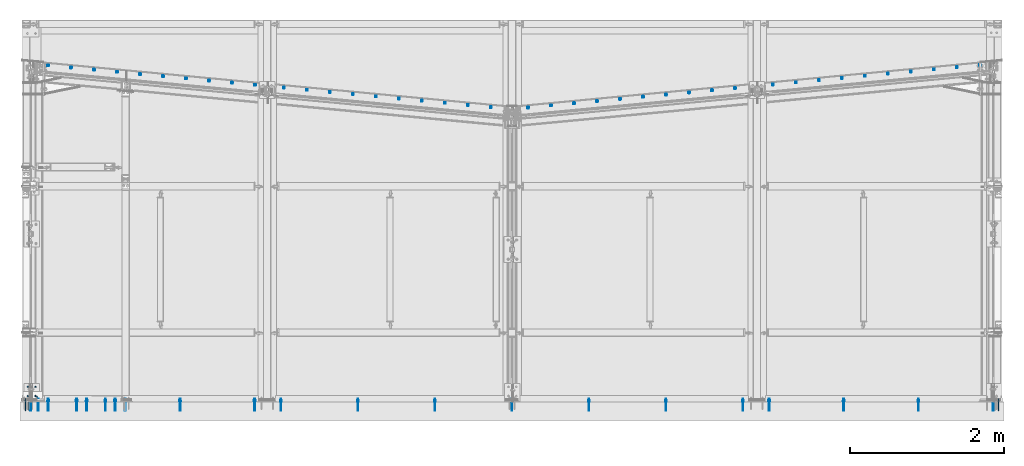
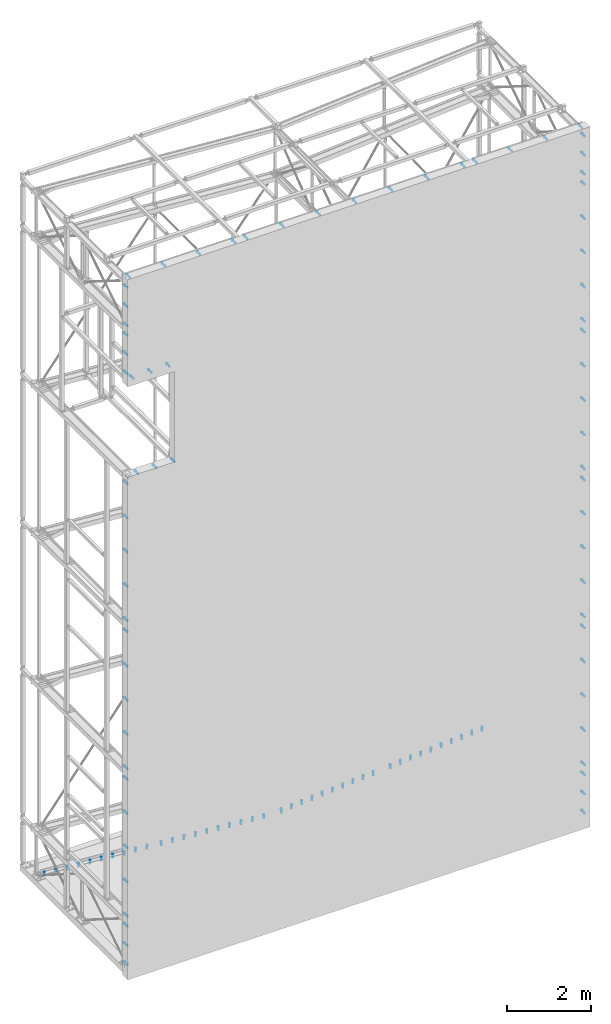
# One storey, part 216 of 271: 23 mechanical fasteners, 21 elements without a shape of their own.
"""IFC2X3 building model written with IfcOpenShell, lengths in millimetres."""

from ifc_helpers import new_model, si_unit, frame, origin_with_axes, origin_2d_with_axis, place, context, subcontext, project, spatial, polyline, circle, outline, extrude, source, transform, mapped, material, type_object, element, aggregate, save


model = new_model("IFC2X3")

# Units and contexts
model_context = context("Model", 3, precision=1e-05, world=origin_with_axes())
body_context = subcontext(model_context, "Body", "Model", "MODEL_VIEW")
ifc_project = project(units=[si_unit("LENGTHUNIT", "METRE", prefix="MILLI"), si_unit("AREAUNIT", "SQUARE_METRE"), si_unit("VOLUMEUNIT", "CUBIC_METRE"), si_unit("MASSUNIT", "GRAM", prefix="KILO"), si_unit("TIMEUNIT", "SECOND"), si_unit("PLANEANGLEUNIT", "RADIAN"), si_unit("SOLIDANGLEUNIT", "STERADIAN"), si_unit("THERMODYNAMICTEMPERATUREUNIT", "DEGREE_CELSIUS"), si_unit("LUMINOUSINTENSITYUNIT", "LUMEN")], contexts=[model_context])

# Site, building, storey
site_placement = place(None, origin_with_axes())
site = spatial("IfcSite", under=ifc_project, at=site_placement, Name="Undefined", CompositionType="ELEMENT")
building_placement = place(site_placement, origin_with_axes())
building = spatial("IfcBuilding", under=site, at=building_placement, Name="Undefined", CompositionType="ELEMENT")
storey_placement = place(building_placement, origin_with_axes())
storey = spatial("IfcBuildingStorey", under=building, at=storey_placement, Name="Undefined", CompositionType="ELEMENT", Elevation=0.0)

# Assembly, mechanical fasteners
assembly_1_placement = place(storey_placement, origin_with_axes())
assembly_1 = element("IfcElementAssembly", 1, at=assembly_1_placement, inside=storey, Name="BELKA", AssemblyPlace="NOTDEFINED", PredefinedType="REINFORCEMENT_UNIT")
ifc_material = material(Name="Undefined")
mechanical_fastener_type = type_object("IfcMechanicalFastenerType", Name="Bolt assembly")
shared_shape_1 = source(origin_with_axes(), body_context, "Body", "SweptSolid", [
    extrude(circle(Radius=7.0, at=origin_2d_with_axis()), frame((0.0, 2.0000000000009, 0.0), z_axis=(0.0, 1.0, 0.0), x_axis=(1.0, 0.0, 0.0)), (0.0, 0.0, 1.0), 8.1),
    extrude(outline(polyline([(10.39230484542, 0.0), (5.19615242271, 9.00000000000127), (-5.19615242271, 9.00000000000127), (-10.39230484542, 0.0), (-5.19615242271, -9.00000000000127), (5.19615242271, -9.00000000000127), (10.39230484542, 0.0)])), frame((0.0, -5.4999999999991, 0.0), z_axis=(0.0, 1.0, 0.0), x_axis=(1.0, 0.0, 0.0)), (0.0, 0.0, 1.0), 7.5),
    extrude(circle(Radius=6.0, at=origin_2d_with_axis()), frame((0.0, 2.0000000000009, 0.0), z_axis=(0.0, 1.0, 0.0), x_axis=(1.0, 0.0, 0.0)), (0.0, 0.0, 1.0), 100.0),
    extrude(circle(Radius=12.0, at=origin_2d_with_axis()), frame((0.0, 10.000000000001, 0.0), z_axis=(0.0, 1.0, 0.0), x_axis=(1.0, 0.0, 0.0)), (0.0, 0.0, 1.0), 2.5),
    extrude(outline(polyline([(10.96965511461, 0.0), (5.484827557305, 9.50000000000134), (-5.484827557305, 9.50000000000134), (-10.96965511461, 0.0), (-5.484827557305, -9.50000000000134), (5.484827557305, -9.50000000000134), (10.96965511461, 0.0)])), frame((0.0, 12.500000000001, 0.0), z_axis=(0.0, 1.0, 0.0), x_axis=(1.0, 0.0, 0.0)), (0.0, 0.0, 1.0), 10.0),
])
mechanical_fastener_1_placement = place(assembly_1_placement, frame((9737.87430430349, 4119.79111776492, -5.15000009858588), z_axis=(-0.0940117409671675, 0.995571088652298, 0.0), x_axis=(0.995571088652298, 0.0940117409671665, 0.0)))
mechanical_fastener_1 = element("IfcMechanicalFastener", 2, at=mechanical_fastener_1_placement, type_object=mechanical_fastener_type, material=ifc_material, Name="Bolt assembly", NominalDiameter=12.0, NominalLength=100.0, context=body_context, shape_type="MappedRepresentation", body=[
    mapped(shared_shape_1, transform((0.0, 0.0, 0.0))),
    mapped(shared_shape_1, transform((300.000000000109, 0.0, 0.0))),
    mapped(shared_shape_1, transform((600.000000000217, 0.0, 0.0))),
    mapped(shared_shape_1, transform((900.000000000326, 0.0, 0.0))),
    mapped(shared_shape_1, transform((1200.00000000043, 0.0, 0.0))),
    mapped(shared_shape_1, transform((1500.00000000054, 0.0, 0.0))),
    mapped(shared_shape_1, transform((1800.00000000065, 0.0, 0.0))),
    mapped(shared_shape_1, transform((2100.00000000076, 0.0, 0.0))),
    mapped(shared_shape_1, transform((2400.00000000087, 0.0, 0.0))),
    mapped(shared_shape_1, transform((2700.00000000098, 0.0, 0.0))),
])
mechanical_fastener_2_placement = place(assembly_1_placement, frame((6557.87688321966, 3819.76376726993, -5.15000009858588), z_axis=(-0.0937382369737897, 0.995596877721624, 0.0), x_axis=(0.995596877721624, 0.0937382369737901, 0.0)))
mechanical_fastener_2 = element("IfcMechanicalFastener", 3, at=mechanical_fastener_2_placement, type_object=mechanical_fastener_type, material=ifc_material, Name="Bolt assembly", NominalDiameter=12.0, NominalLength=100.0, context=body_context, shape_type="MappedRepresentation", body=[
    mapped(shared_shape_1, transform((0.0, 0.0, 0.0))),
    mapped(shared_shape_1, transform((300.000000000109, 0.0, 0.0))),
    mapped(shared_shape_1, transform((600.000000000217, 0.0, 0.0))),
    mapped(shared_shape_1, transform((900.000000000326, 0.0, 0.0))),
    mapped(shared_shape_1, transform((1200.00000000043, 0.0, 0.0))),
    mapped(shared_shape_1, transform((1500.00000000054, 0.0, 0.0))),
    mapped(shared_shape_1, transform((1800.00000000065, 0.0, 0.0))),
    mapped(shared_shape_1, transform((2100.00000000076, 0.0, 0.0))),
    mapped(shared_shape_1, transform((2400.00000000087, 0.0, 0.0))),
    mapped(shared_shape_1, transform((2700.00000000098, 0.0, 0.0))),
])
aggregate(assembly_1, [mechanical_fastener_1, mechanical_fastener_2])

assembly_2_placement = place(storey_placement, origin_with_axes())
assembly_2 = element("IfcElementAssembly", 4, at=assembly_2_placement, inside=storey, Name="BELKA", AssemblyPlace="NOTDEFINED", PredefinedType="REINFORCEMENT_UNIT")
mechanical_fastener_3_placement = place(assembly_2_placement, frame((3386.97705924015, 4079.20692797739, -5.15000009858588), z_axis=(0.09400447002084, 0.995571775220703, 0.0), x_axis=(0.995571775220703, -0.0940044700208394, 0.0)))
mechanical_fastener_3 = element("IfcMechanicalFastener", 5, at=mechanical_fastener_3_placement, type_object=mechanical_fastener_type, material=ifc_material, Name="Bolt assembly", NominalDiameter=12.0, NominalLength=100.0, context=body_context, shape_type="MappedRepresentation", body=[
    mapped(shared_shape_1, transform((0.0, 0.0, 0.0))),
    mapped(shared_shape_1, transform((300.000000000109, 0.0, 0.0))),
    mapped(shared_shape_1, transform((600.000000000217, 0.0, 0.0))),
    mapped(shared_shape_1, transform((900.000000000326, 0.0, 0.0))),
    mapped(shared_shape_1, transform((1200.00000000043, 0.0, 0.0))),
    mapped(shared_shape_1, transform((1500.00000000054, 0.0, 0.0))),
    mapped(shared_shape_1, transform((1800.00000000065, 0.0, 0.0))),
    mapped(shared_shape_1, transform((2100.00000000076, 0.0, 0.0))),
    mapped(shared_shape_1, transform((2400.00000000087, 0.0, 0.0))),
    mapped(shared_shape_1, transform((2700.00000000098, 0.0, 0.0))),
])
mechanical_fastener_4_placement = place(assembly_2_placement, frame((323.976903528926, 4368.20527906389, -6.15000009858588), z_axis=(0.0940209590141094, 0.995570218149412, 0.0), x_axis=(0.995570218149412, -0.0940209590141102, 0.0)))
mechanical_fastener_4 = element("IfcMechanicalFastener", 6, at=mechanical_fastener_4_placement, type_object=mechanical_fastener_type, material=ifc_material, Name="Bolt assembly", NominalDiameter=12.0, NominalLength=100.0, context=body_context, shape_type="MappedRepresentation", body=[
    mapped(shared_shape_1, transform((0.0, 0.0, 0.0))),
    mapped(shared_shape_1, transform((300.000000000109, 0.0, 0.0))),
    mapped(shared_shape_1, transform((600.000000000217, 0.0, 0.0))),
    mapped(shared_shape_1, transform((900.000000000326, 0.0, 0.0))),
    mapped(shared_shape_1, transform((1200.00000000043, 0.0, 0.0))),
    mapped(shared_shape_1, transform((1500.00000000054, 0.0, 0.0))),
    mapped(shared_shape_1, transform((1800.00000000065, 0.0, 0.0))),
    mapped(shared_shape_1, transform((2100.00000000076, 0.0, 0.0))),
    mapped(shared_shape_1, transform((2400.00000000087, 0.0, 0.0))),
    mapped(shared_shape_1, transform((2700.00000000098, 0.0, 0.0))),
])
aggregate(assembly_2, [mechanical_fastener_3, mechanical_fastener_4])

# Assembly, mechanical fastener
assembly_3_placement = place(storey_placement, origin_with_axes())
assembly_3 = element("IfcElementAssembly", 7, at=assembly_3_placement, inside=storey, AssemblyPlace="NOTDEFINED", PredefinedType="REINFORCEMENT_UNIT")
shared_shape_2 = source(origin_with_axes(), body_context, "Body", "SweptSolid", [
    extrude(circle(Radius=7.0, at=origin_2d_with_axis()), frame((0.0, 0.0, 0.0), z_axis=(0.0, 1.0, 0.0), x_axis=(1.0, 0.0, 0.0)), (0.0, 0.0, 1.0), 16.1),
    extrude(outline(polyline([(10.39230484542, 0.0), (5.19615242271, 9.00000000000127), (-5.19615242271, 9.00000000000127), (-10.39230484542, 0.0), (-5.19615242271, -9.00000000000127), (5.19615242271, -9.00000000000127), (10.39230484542, 0.0)])), frame((0.0, -7.5, 0.0), z_axis=(0.0, 1.0, 0.0), x_axis=(1.0, 0.0, 0.0)), (0.0, 0.0, 1.0), 7.5),
    extrude(circle(Radius=6.0, at=origin_2d_with_axis()), frame((0.0, 0.0, 0.0), z_axis=(0.0, 1.0, 0.0), x_axis=(1.0, 0.0, 0.0)), (0.0, 0.0, 1.0), 100.0),
    extrude(circle(Radius=12.0, at=origin_2d_with_axis()), frame((0.0, 16.0, 0.0), z_axis=(0.0, 1.0, 0.0), x_axis=(1.0, 0.0, 0.0)), (0.0, 0.0, 1.0), 2.5),
    extrude(outline(polyline([(10.96965511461, 0.0), (5.484827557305, 9.50000000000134), (-5.484827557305, 9.50000000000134), (-10.96965511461, 0.0), (-5.484827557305, -9.50000000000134), (5.484827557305, -9.50000000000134), (10.96965511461, 0.0)])), frame((0.0, 18.5, 0.0), z_axis=(0.0, 1.0, 0.0), x_axis=(1.0, 0.0, 0.0)), (0.0, 0.0, 1.0), 10.0),
])
mechanical_fastener_5_placement = place(assembly_3_placement, frame((109.999999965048, 195.0, 0.0), z_axis=(1.0, 0.0, 0.0), x_axis=(0.0, -1.0, 0.0)))
mechanical_fastener_5 = element("IfcMechanicalFastener", 8, at=mechanical_fastener_5_placement, type_object=mechanical_fastener_type, material=ifc_material, Name="Bolt assembly", NominalDiameter=12.0, NominalLength=100.0, context=body_context, shape_type="MappedRepresentation", body=[
    mapped(shared_shape_2, transform((0.0, 0.0, -50.0))),
    mapped(shared_shape_2, transform((120.0, 0.0, -50.0000000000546))),
    mapped(shared_shape_2, transform((0.0, 0.0, 50.0))),
    mapped(shared_shape_2, transform((120.0, 0.0, 49.9999999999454))),
])
aggregate(assembly_3, [mechanical_fastener_5])

assembly_4_placement = place(storey_placement, origin_with_axes())
assembly_4 = element("IfcElementAssembly", 9, at=assembly_4_placement, inside=storey, AssemblyPlace="NOTDEFINED", PredefinedType="RIGID_FRAME")
shared_shape_3 = source(origin_with_axes(), body_context, "Body", "SweptSolid", [
    extrude(circle(Radius=7.0, at=origin_2d_with_axis()), frame((0.0, 0.0, 0.0), z_axis=(0.0, 1.0, 0.0), x_axis=(1.0, 0.0, 0.0)), (0.0, 0.0, 1.0), 6.1),
    extrude(outline(polyline([(5.80237031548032, 0.0), (2.90118515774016, 5.02500009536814), (-2.90118515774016, 5.02500009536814), (-5.80237031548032, 0.0), (-2.90118515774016, -5.02500009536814), (2.90118515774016, -5.02500009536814), (5.80237031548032, 0.0)])), frame((0.0, -116.0, 0.0), z_axis=(0.0, 1.0, 0.0), x_axis=(1.0, 0.0, 0.0)), (0.0, 0.0, 1.0), 116.0),
    extrude(circle(Radius=6.0, at=origin_2d_with_axis()), frame((0.0, 0.0, 0.0), z_axis=(0.0, 1.0, 0.0), x_axis=(1.0, 0.0, 0.0)), (0.0, 0.0, 1.0), 44.0),
    extrude(circle(Radius=12.0, at=origin_2d_with_axis()), frame((0.0, 6.0, 0.0), z_axis=(0.0, 1.0, 0.0), x_axis=(1.0, 0.0, 0.0)), (0.0, 0.0, 1.0), 2.5),
    extrude(outline(polyline([(10.96965511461, 0.0), (5.484827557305, 9.50000000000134), (-5.484827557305, 9.50000000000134), (-10.96965511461, 0.0), (-5.484827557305, -9.50000000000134), (5.484827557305, -9.50000000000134), (10.96965511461, 0.0)])), frame((0.0, 8.5, 0.0), z_axis=(0.0, 1.0, 0.0), x_axis=(1.0, 0.0, 0.0)), (0.0, 0.0, 1.0), 10.0),
])
mechanical_fastener_6_placement = place(assembly_4_placement, frame((3348.37568709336, -0.675015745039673, 20164.3499999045), z_axis=(0.0, 0.0, 1.0), x_axis=(1.0, 0.0, 0.0)))
mechanical_fastener_6 = element("IfcMechanicalFastener", 10, at=mechanical_fastener_6_placement, type_object=mechanical_fastener_type, material=ifc_material, Name="Bolt assembly", NominalDiameter=12.0, NominalLength=44.0, context=body_context, shape_type="MappedRepresentation", body=[
    mapped(shared_shape_3, transform((0.0, 0.0, 0.0))),
    mapped(shared_shape_3, transform((1000.0, 0.0, 0.0))),
    mapped(shared_shape_3, transform((2000.0, 0.0, 0.0))),
    mapped(shared_shape_3, transform((3000.0, 0.0, 0.0))),
    mapped(shared_shape_3, transform((4000.0, 0.0, 0.0))),
    mapped(shared_shape_3, transform((5000.0, 0.0, 0.0))),
    mapped(shared_shape_3, transform((6000.0, 0.0, 0.0))),
])
aggregate(assembly_4, [mechanical_fastener_6])

assembly_5_placement = place(storey_placement, origin_with_axes())
assembly_5 = element("IfcElementAssembly", 11, at=assembly_5_placement, inside=storey, AssemblyPlace="NOTDEFINED", PredefinedType="RIGID_FRAME")
mechanical_fastener_7_placement = place(assembly_5_placement, frame((9688.37568709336, -0.675015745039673, 20164.3499999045), z_axis=(0.0, 0.0, 1.0), x_axis=(1.0, 0.0, 0.0)))
mechanical_fastener_7 = element("IfcMechanicalFastener", 12, at=mechanical_fastener_7_placement, type_object=mechanical_fastener_type, material=ifc_material, Name="Bolt assembly", NominalDiameter=12.0, NominalLength=44.0, context=body_context, shape_type="MappedRepresentation", body=[
    mapped(shared_shape_3, transform((0.0, 0.0, 0.0))),
    mapped(shared_shape_3, transform((970.0, 0.0, 0.0))),
    mapped(shared_shape_3, transform((1940.0, 0.0, 0.0))),
    mapped(shared_shape_3, transform((2910.0, 0.0, 0.0))),
])
aggregate(assembly_5, [mechanical_fastener_7])

assembly_6_placement = place(storey_placement, origin_with_axes())
assembly_6 = element("IfcElementAssembly", 13, at=assembly_6_placement, inside=storey, AssemblyPlace="NOTDEFINED", PredefinedType="RIGID_FRAME")
mechanical_fastener_8_placement = place(assembly_6_placement, frame((3008.37648498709, -0.675015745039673, 20164.3500102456), z_axis=(0.0, 0.0, -1.0), x_axis=(-1.0, 0.0, 1.38777878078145e-17)))
mechanical_fastener_8 = element("IfcMechanicalFastener", 14, at=mechanical_fastener_8_placement, type_object=mechanical_fastener_type, material=ifc_material, Name="Bolt assembly", NominalDiameter=12.0, NominalLength=44.0, context=body_context, shape_type="MappedRepresentation", body=[
    mapped(shared_shape_3, transform((0.0, 0.0, 0.0))),
    mapped(shared_shape_3, transform((970.0, 0.0, 0.0))),
    mapped(shared_shape_3, transform((1940.0, 0.0, 0.0))),
    mapped(shared_shape_3, transform((2910.0, 0.0, 0.0))),
])
aggregate(assembly_6, [mechanical_fastener_8])

assembly_7_placement = place(storey_placement, origin_with_axes())
assembly_7 = element("IfcElementAssembly", 15, at=assembly_7_placement, inside=storey, AssemblyPlace="NOTDEFINED", PredefinedType="RIGID_FRAME")
mechanical_fastener_9_placement = place(assembly_7_placement, frame((326.87089684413, -0.693303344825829, 14351.8499999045), z_axis=(0.0, 0.0, 1.0), x_axis=(0.999999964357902, -0.000266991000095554, 0.0)))
mechanical_fastener_9 = element("IfcMechanicalFastener", 16, at=mechanical_fastener_9_placement, type_object=mechanical_fastener_type, material=ifc_material, Name="Bolt assembly", NominalDiameter=12.0, NominalLength=44.0, context=body_context, shape_type="MappedRepresentation", body=[
    mapped(shared_shape_3, transform((0.0, 0.0, 0.0))),
    mapped(shared_shape_3, transform((500.000000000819, -8.03019872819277e-10, 0.0))),
    mapped(shared_shape_3, transform((1000.0, 0.0, 0.0))),
])
aggregate(assembly_7, [mechanical_fastener_9])

assembly_8_placement = place(storey_placement, origin_with_axes())
assembly_8 = element("IfcElementAssembly", 17, at=assembly_8_placement, inside=storey, AssemblyPlace="NOTDEFINED", PredefinedType="RIGID_FRAME")
mechanical_fastener_10_placement = place(assembly_8_placement, frame((1194.37568709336, -0.947880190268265, 17184.3499999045), z_axis=(0.0, 0.0, -1.0), x_axis=(-1.0, 0.0, 1.38777878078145e-17)))
mechanical_fastener_10 = element("IfcMechanicalFastener", 18, at=mechanical_fastener_10_placement, type_object=mechanical_fastener_type, material=ifc_material, Name="Bolt assembly", NominalDiameter=12.0, NominalLength=44.0, context=body_context, shape_type="MappedRepresentation", body=[
    mapped(shared_shape_3, transform((0.0, 0.0, 0.0))),
    mapped(shared_shape_3, transform((500.000000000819, -8.03019872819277e-10, 0.0))),
    mapped(shared_shape_3, transform((1000.0, 0.0, 0.0))),
])
aggregate(assembly_8, [mechanical_fastener_10])

assembly_9_placement = place(storey_placement, origin_with_axes())
assembly_9 = element("IfcElementAssembly", 19, at=assembly_9_placement, inside=storey, AssemblyPlace="NOTDEFINED", PredefinedType="RIGID_FRAME")
mechanical_fastener_11_placement = place(assembly_9_placement, frame((28.3752314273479, 3.32498425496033, 18494.3502459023), z_axis=(1.0, 0.0, 0.0), x_axis=(0.0, 0.0, -1.0)))
mechanical_fastener_11 = element("IfcMechanicalFastener", 20, at=mechanical_fastener_11_placement, type_object=mechanical_fastener_type, material=ifc_material, Name="Bolt assembly", NominalDiameter=12.0, NominalLength=44.0, context=body_context, shape_type="MappedRepresentation", body=[
    mapped(shared_shape_3, transform((0.0, 0.0, 0.0))),
    mapped(shared_shape_3, transform((560.000000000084, 0.0, 0.0))),
    mapped(shared_shape_3, transform((1120.00000000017, 0.0, 0.0))),
])
aggregate(assembly_9, [mechanical_fastener_11])

assembly_10_placement = place(storey_placement, origin_with_axes())
assembly_10 = element("IfcElementAssembly", 21, at=assembly_10_placement, inside=storey, AssemblyPlace="NOTDEFINED", PredefinedType="RIGID_FRAME")
mechanical_fastener_12_placement = place(assembly_10_placement, frame((12668.3756870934, -0.675015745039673, 111.849999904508), z_axis=(-1.0, 0.0, 1.38777878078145e-17), x_axis=(0.0, 0.0, 1.0)))
mechanical_fastener_12 = element("IfcMechanicalFastener", 22, at=mechanical_fastener_12_placement, type_object=mechanical_fastener_type, material=ifc_material, Name="Bolt assembly", NominalDiameter=12.0, NominalLength=44.0, context=body_context, shape_type="MappedRepresentation", body=[
    mapped(shared_shape_3, transform((0.0, 0.0, 0.0))),
    mapped(shared_shape_3, transform((560.000000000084, 0.0, 0.0))),
    mapped(shared_shape_3, transform((1120.00000000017, 0.0, 0.0))),
])
aggregate(assembly_10, [mechanical_fastener_12])

assembly_11_placement = place(storey_placement, origin_with_axes())
assembly_11 = element("IfcElementAssembly", 23, at=assembly_11_placement, inside=storey, AssemblyPlace="NOTDEFINED", PredefinedType="RIGID_FRAME")
mechanical_fastener_13_placement = place(assembly_11_placement, frame((28.3756870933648, -0.675015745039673, 1231.84999990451), z_axis=(1.0, 0.0, 0.0), x_axis=(0.0, 0.0, -1.0)))
mechanical_fastener_13 = element("IfcMechanicalFastener", 24, at=mechanical_fastener_13_placement, type_object=mechanical_fastener_type, material=ifc_material, Name="Bolt assembly", NominalDiameter=12.0, NominalLength=44.0, context=body_context, shape_type="MappedRepresentation", body=[
    mapped(shared_shape_3, transform((0.0, 0.0, 0.0))),
    mapped(shared_shape_3, transform((560.000000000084, 0.0, 0.0))),
    mapped(shared_shape_3, transform((1120.00000000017, 0.0, 0.0))),
])
aggregate(assembly_11, [mechanical_fastener_13])

assembly_12_placement = place(storey_placement, origin_with_axes())
assembly_12 = element("IfcElementAssembly", 25, at=assembly_12_placement, inside=storey, AssemblyPlace="NOTDEFINED", PredefinedType="RIGID_FRAME")
mechanical_fastener_14_placement = place(assembly_12_placement, frame((28.3756870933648, -0.675015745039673, 19896.8499999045), z_axis=(1.0, 0.0, 0.0), x_axis=(0.0, 0.0, -1.0)))
mechanical_fastener_14 = element("IfcMechanicalFastener", 26, at=mechanical_fastener_14_placement, type_object=mechanical_fastener_type, material=ifc_material, Name="Bolt assembly", NominalDiameter=12.0, NominalLength=44.0, context=body_context, shape_type="MappedRepresentation", body=[
    mapped(shared_shape_3, transform((0.0, 0.0, 0.0))),
    mapped(shared_shape_3, transform((560.000000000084, 0.0, 0.0))),
    mapped(shared_shape_3, transform((1120.00000000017, 0.0, 0.0))),
])
aggregate(assembly_12, [mechanical_fastener_14])

assembly_13_placement = place(storey_placement, origin_with_axes())
assembly_13 = element("IfcElementAssembly", 27, at=assembly_13_placement, inside=storey, AssemblyPlace="NOTDEFINED", PredefinedType="RIGID_FRAME")
mechanical_fastener_15_placement = place(assembly_13_placement, frame((12668.3756870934, -0.675015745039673, 18776.8499999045), z_axis=(-1.0, 0.0, 1.38777878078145e-17), x_axis=(0.0, 0.0, 1.0)))
mechanical_fastener_15 = element("IfcMechanicalFastener", 28, at=mechanical_fastener_15_placement, type_object=mechanical_fastener_type, material=ifc_material, Name="Bolt assembly", NominalDiameter=12.0, NominalLength=44.0, context=body_context, shape_type="MappedRepresentation", body=[
    mapped(shared_shape_3, transform((0.0, 0.0, 0.0))),
    mapped(shared_shape_3, transform((560.000000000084, 0.0, 0.0))),
    mapped(shared_shape_3, transform((1120.00000000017, 0.0, 0.0))),
])
aggregate(assembly_13, [mechanical_fastener_15])

assembly_14_placement = place(storey_placement, origin_with_axes())
assembly_14 = element("IfcElementAssembly", 29, at=assembly_14_placement, inside=storey, AssemblyPlace="NOTDEFINED", PredefinedType="RIGID_FRAME")
mechanical_fastener_16_placement = place(assembly_14_placement, frame((12668.3756870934, -0.675015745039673, 14484.3499999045), z_axis=(-1.0, 0.0, 1.38777878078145e-17), x_axis=(0.0, 0.0, 1.0)))
mechanical_fastener_16 = element("IfcMechanicalFastener", 30, at=mechanical_fastener_16_placement, type_object=mechanical_fastener_type, material=ifc_material, Name="Bolt assembly", NominalDiameter=12.0, NominalLength=44.0, context=body_context, shape_type="MappedRepresentation", body=[
    mapped(shared_shape_3, transform((0.0, 0.0, 0.0))),
    mapped(shared_shape_3, transform((1000.0, 0.0, 0.0))),
    mapped(shared_shape_3, transform((2000.0, 0.0, 0.0))),
    mapped(shared_shape_3, transform((3000.0, 0.0, 0.0))),
    mapped(shared_shape_3, transform((4000.0, 0.0, 0.0))),
])
aggregate(assembly_14, [mechanical_fastener_16])

assembly_15_placement = place(storey_placement, origin_with_axes())
assembly_15 = element("IfcElementAssembly", 31, at=assembly_15_placement, inside=storey, AssemblyPlace="NOTDEFINED", PredefinedType="RIGID_FRAME")
mechanical_fastener_17_placement = place(assembly_15_placement, frame((12668.3756870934, -0.675015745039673, 10164.3499999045), z_axis=(-1.0, 0.0, 1.38777878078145e-17), x_axis=(0.0, 0.0, 1.0)))
mechanical_fastener_17 = element("IfcMechanicalFastener", 32, at=mechanical_fastener_17_placement, type_object=mechanical_fastener_type, material=ifc_material, Name="Bolt assembly", NominalDiameter=12.0, NominalLength=44.0, context=body_context, shape_type="MappedRepresentation", body=[
    mapped(shared_shape_3, transform((0.0, 0.0, 0.0))),
    mapped(shared_shape_3, transform((1000.0, 0.0, 0.0))),
    mapped(shared_shape_3, transform((2000.0, 0.0, 0.0))),
    mapped(shared_shape_3, transform((3000.0, 0.0, 0.0))),
    mapped(shared_shape_3, transform((4000.0, 0.0, 0.0))),
])
aggregate(assembly_15, [mechanical_fastener_17])

assembly_16_placement = place(storey_placement, origin_with_axes())
assembly_16 = element("IfcElementAssembly", 33, at=assembly_16_placement, inside=storey, AssemblyPlace="NOTDEFINED", PredefinedType="RIGID_FRAME")
mechanical_fastener_18_placement = place(assembly_16_placement, frame((12668.3756870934, -0.675015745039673, 5844.34999990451), z_axis=(-1.0, 0.0, 1.38777878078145e-17), x_axis=(0.0, 0.0, 1.0)))
mechanical_fastener_18 = element("IfcMechanicalFastener", 34, at=mechanical_fastener_18_placement, type_object=mechanical_fastener_type, material=ifc_material, Name="Bolt assembly", NominalDiameter=12.0, NominalLength=44.0, context=body_context, shape_type="MappedRepresentation", body=[
    mapped(shared_shape_3, transform((0.0, 0.0, 0.0))),
    mapped(shared_shape_3, transform((1000.0, 0.0, 0.0))),
    mapped(shared_shape_3, transform((2000.0, 0.0, 0.0))),
    mapped(shared_shape_3, transform((3000.0, 0.0, 0.0))),
    mapped(shared_shape_3, transform((4000.0, 0.0, 0.0))),
])
aggregate(assembly_16, [mechanical_fastener_18])

assembly_17_placement = place(storey_placement, origin_with_axes())
assembly_17 = element("IfcElementAssembly", 35, at=assembly_17_placement, inside=storey, AssemblyPlace="NOTDEFINED", PredefinedType="RIGID_FRAME")
mechanical_fastener_19_placement = place(assembly_17_placement, frame((12668.3756870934, -0.675015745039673, 1524.34999990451), z_axis=(-1.0, 0.0, 1.38777878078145e-17), x_axis=(0.0, 0.0, 1.0)))
mechanical_fastener_19 = element("IfcMechanicalFastener", 36, at=mechanical_fastener_19_placement, type_object=mechanical_fastener_type, material=ifc_material, Name="Bolt assembly", NominalDiameter=12.0, NominalLength=44.0, context=body_context, shape_type="MappedRepresentation", body=[
    mapped(shared_shape_3, transform((0.0, 0.0, 0.0))),
    mapped(shared_shape_3, transform((1000.0, 0.0, 0.0))),
    mapped(shared_shape_3, transform((2000.0, 0.0, 0.0))),
    mapped(shared_shape_3, transform((3000.0, 0.0, 0.0))),
    mapped(shared_shape_3, transform((4000.0, 0.0, 0.0))),
])
aggregate(assembly_17, [mechanical_fastener_19])

assembly_18_placement = place(storey_placement, origin_with_axes())
assembly_18 = element("IfcElementAssembly", 37, at=assembly_18_placement, inside=storey, AssemblyPlace="NOTDEFINED", PredefinedType="RIGID_FRAME")
mechanical_fastener_20_placement = place(assembly_18_placement, frame((28.3756870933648, -0.675015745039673, 10164.3499999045), z_axis=(-1.0, 0.0, 1.38777878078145e-17), x_axis=(0.0, 0.0, 1.0)))
mechanical_fastener_20 = element("IfcMechanicalFastener", 38, at=mechanical_fastener_20_placement, type_object=mechanical_fastener_type, material=ifc_material, Name="Bolt assembly", NominalDiameter=12.0, NominalLength=44.0, context=body_context, shape_type="MappedRepresentation", body=[
    mapped(shared_shape_3, transform((0.0, 0.0, 0.0))),
    mapped(shared_shape_3, transform((1000.0, 0.0, 0.0))),
    mapped(shared_shape_3, transform((2000.0, 0.0, 0.0))),
    mapped(shared_shape_3, transform((3000.0, 0.0, 0.0))),
    mapped(shared_shape_3, transform((4000.0, 0.0, 0.0))),
])
aggregate(assembly_18, [mechanical_fastener_20])

assembly_19_placement = place(storey_placement, origin_with_axes())
assembly_19 = element("IfcElementAssembly", 39, at=assembly_19_placement, inside=storey, AssemblyPlace="NOTDEFINED", PredefinedType="RIGID_FRAME")
mechanical_fastener_21_placement = place(assembly_19_placement, frame((28.3756870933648, -0.675015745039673, 1524.34999990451), z_axis=(-1.0, 0.0, 1.38777878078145e-17), x_axis=(0.0, 0.0, 1.0)))
mechanical_fastener_21 = element("IfcMechanicalFastener", 40, at=mechanical_fastener_21_placement, type_object=mechanical_fastener_type, material=ifc_material, Name="Bolt assembly", NominalDiameter=12.0, NominalLength=44.0, context=body_context, shape_type="MappedRepresentation", body=[
    mapped(shared_shape_3, transform((0.0, 0.0, 0.0))),
    mapped(shared_shape_3, transform((1000.0, 0.0, 0.0))),
    mapped(shared_shape_3, transform((2000.0, 0.0, 0.0))),
    mapped(shared_shape_3, transform((3000.0, 0.0, 0.0))),
    mapped(shared_shape_3, transform((4000.0, 0.0, 0.0))),
])
aggregate(assembly_19, [mechanical_fastener_21])

assembly_20_placement = place(storey_placement, origin_with_axes())
assembly_20 = element("IfcElementAssembly", 41, at=assembly_20_placement, inside=storey, AssemblyPlace="NOTDEFINED", PredefinedType="RIGID_FRAME")
mechanical_fastener_22_placement = place(assembly_20_placement, frame((28.3756870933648, -0.675015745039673, 5834.34999990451), z_axis=(-1.0, 0.0, 1.38777878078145e-17), x_axis=(0.0, 0.0, 1.0)))
mechanical_fastener_22 = element("IfcMechanicalFastener", 42, at=mechanical_fastener_22_placement, type_object=mechanical_fastener_type, material=ifc_material, Name="Bolt assembly", NominalDiameter=12.0, NominalLength=44.0, context=body_context, shape_type="MappedRepresentation", body=[
    mapped(shared_shape_3, transform((0.0, 0.0, 0.0))),
    mapped(shared_shape_3, transform((1000.0, 0.0, 0.0))),
    mapped(shared_shape_3, transform((2000.0, 0.0, 0.0))),
    mapped(shared_shape_3, transform((3000.0, 0.0, 0.0))),
    mapped(shared_shape_3, transform((4000.0, 0.0, 0.0))),
])
aggregate(assembly_20, [mechanical_fastener_22])

assembly_21_placement = place(storey_placement, origin_with_axes())
assembly_21 = element("IfcElementAssembly", 43, at=assembly_21_placement, inside=storey, AssemblyPlace="NOTDEFINED", PredefinedType="RIGID_FRAME")
shared_shape_4 = source(origin_with_axes(), body_context, "Body", "SweptSolid", [
    extrude(circle(Radius=9.0, at=origin_2d_with_axis()), frame((0.0, -16.0, 0.0), z_axis=(0.0, 1.0, 0.0), x_axis=(1.0, 0.0, 0.0)), (0.0, 0.0, 1.0), 16.1),
    extrude(outline(polyline([(7.73649338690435, 0.0), (3.86824669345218, 6.69999980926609), (-3.86824669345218, 6.69999980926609), (-7.73649338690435, 0.0), (-3.86824669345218, -6.69999980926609), (3.86824669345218, -6.69999980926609), (7.73649338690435, 0.0)])), frame((0.0, -148.0, 0.0), z_axis=(0.0, 1.0, 0.0), x_axis=(1.0, 0.0, 0.0)), (0.0, 0.0, 1.0), 132.0),
    extrude(circle(Radius=8.0, at=origin_2d_with_axis()), frame((0.0, -16.0, 0.0), z_axis=(0.0, 1.0, 0.0), x_axis=(1.0, 0.0, 0.0)), (0.0, 0.0, 1.0), 58.0),
    extrude(circle(Radius=15.0, at=origin_2d_with_axis()), frame((0.0, 0.0, 0.0), z_axis=(0.0, 1.0, 0.0), x_axis=(1.0, 0.0, 0.0)), (0.0, 0.0, 1.0), 3.0),
    extrude(outline(polyline([(15.4441197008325, 0.0), (7.72205985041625, 13.3750000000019), (-7.72205985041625, 13.3750000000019), (-15.4441197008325, 0.0), (-7.72205985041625, -13.3750000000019), (7.72205985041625, -13.3750000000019), (15.4441197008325, 0.0)])), frame((0.0, 3.0, 0.0), z_axis=(0.0, 1.0, 0.0), x_axis=(1.0, 0.0, 0.0)), (0.0, 0.0, 1.0), 13.0),
])
mechanical_fastener_23_placement = place(assembly_21_placement, frame((253.375687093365, 35.3249842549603, 14324.3499999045), z_axis=(0.0, 0.0, -1.0), x_axis=(-1.0, 0.0, 1.38777878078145e-17)))
mechanical_fastener_23 = element("IfcMechanicalFastener", 44, at=mechanical_fastener_23_placement, type_object=mechanical_fastener_type, material=ifc_material, Name="Bolt assembly", NominalDiameter=16.0, NominalLength=58.0, context=body_context, shape_type="MappedRepresentation", body=[
    mapped(shared_shape_4, transform((75.0, 0.0, -35.0))),
    mapped(shared_shape_4, transform((75.0, 0.0, 35.0))),
    mapped(shared_shape_4, transform((175.0, 0.0, -35.0))),
    mapped(shared_shape_4, transform((175.0, 0.0, 35.0))),
])
aggregate(assembly_21, [mechanical_fastener_23])

save(model, "model.ifc")
